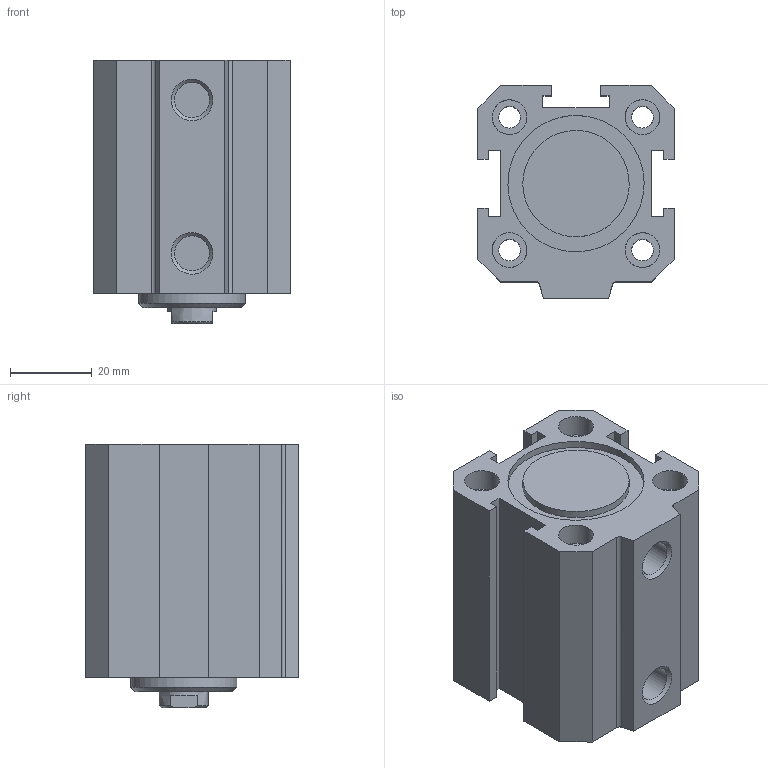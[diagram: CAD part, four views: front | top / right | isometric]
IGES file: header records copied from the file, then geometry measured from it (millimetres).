
Global section: file name: 1511_32_0020; native system: Autodesk Inventor 2014; preprocessor: unknown; author: A. Manieri; date: 20160824.113404; units: millimetre
Bounding box: 48 x 52 x 64.5 mm (x, y, z)
Volume: 97721.7 mm3; surface area: 33214.5 mm2
Topology: 2 solids, 2 shells, 93 faces, 237 edges, 166 vertices
Faces by surface type: bspline 93
